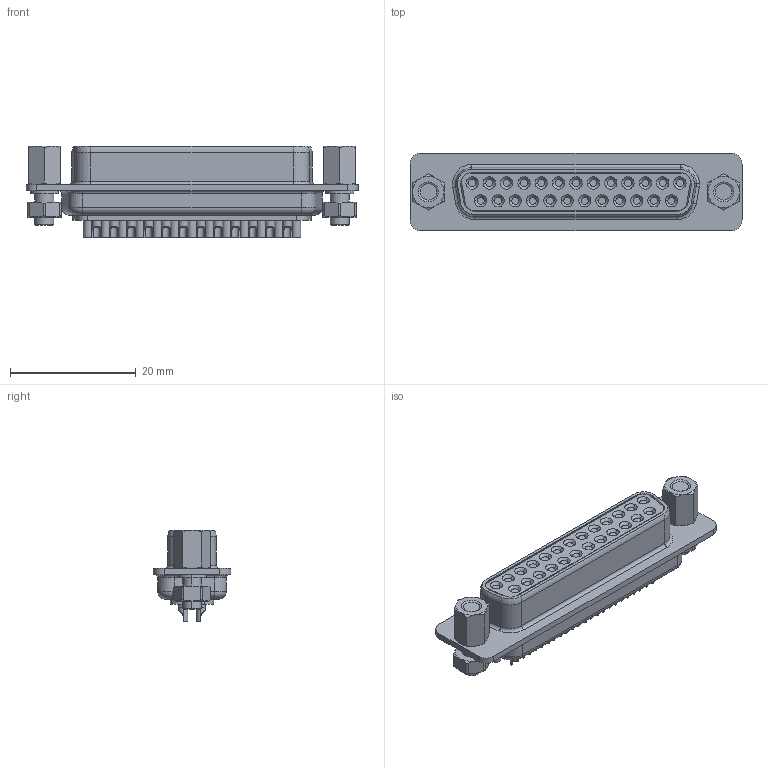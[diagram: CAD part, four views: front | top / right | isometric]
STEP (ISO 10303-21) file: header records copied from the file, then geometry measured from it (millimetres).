
FILE_DESCRIPTION (( 'STEP AP203' ), '1' );
FILE_NAME ('17JE-13250-02(D3A)A.STEP', '2021-07-30T01:30:33', ( '' ), ( '' ), 'SwSTEP 2.0', 'SolidWorks 2018', '' );
FILE_SCHEMA (( 'CONFIG_CONTROL_DESIGN' ));
Length unit declared in the file: millimetre
Products named in the file (1): 17JE-13250-02(D3A)A
Bounding box: 52.9 x 12.4 x 14.6 mm (x, y, z)
Volume: 4629 mm3; surface area: 5488.6 mm2
Topology: 1 solids, 1 shells, 610 faces, 1441 edges, 847 vertices
Faces by surface type: cylinder 233, plane 188, cone 129, torus 56, bspline 4
Entity records: 18762 total; most frequent: CARTESIAN_POINT 4841, DIRECTION 3009, ORIENTED_EDGE 2782, EDGE_CURVE 1391, AXIS2_PLACEMENT_3D 1165, VERTEX_POINT 847, EDGE_LOOP 682, LINE 679
